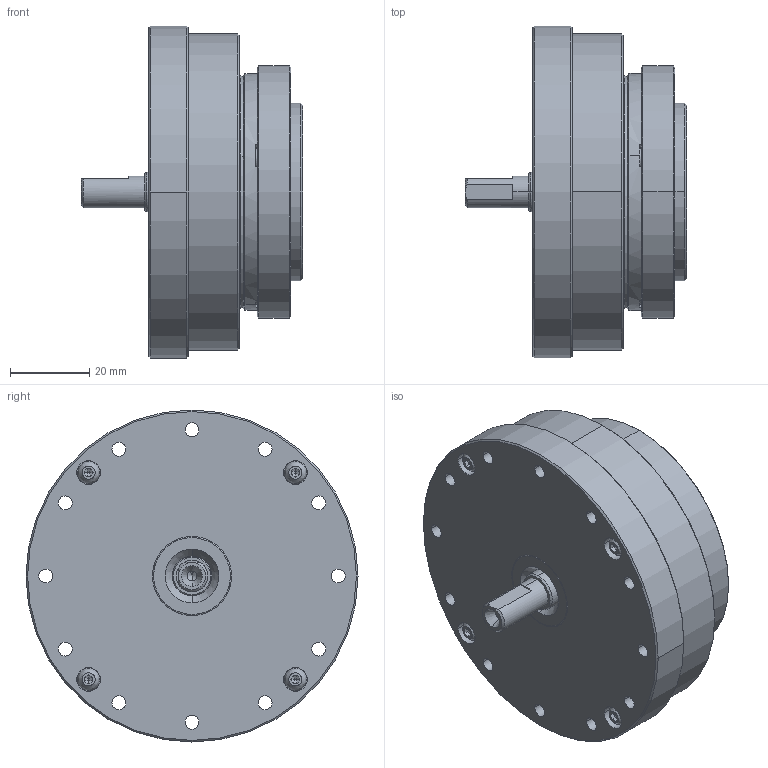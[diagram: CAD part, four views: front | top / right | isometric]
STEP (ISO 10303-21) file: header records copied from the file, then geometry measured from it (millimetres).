
FILE_DESCRIPTION (( 'STEP AP203' ), '1' );
FILE_NAME ('LHSG-17-XXX-C-IV.step', '2025-01-07T07:24:15', ( '' ), ( '' ), 'SwSTEP 2.0', 'SolidWorks 2023', '' );
FILE_SCHEMA (( 'CONFIG_CONTROL_DESIGN' ));
Length unit declared in the file: metre
Products named in the file (1): LHSG-17-XXX-C-IV
Bounding box: 56 x 84 x 84 mm (x, y, z)
Volume: 121185.9 mm3; surface area: 99323.7 mm2
Topology: 64 solids, 64 shells, 1755 faces, 4406 edges, 2679 vertices
Faces by surface type: cylinder 634, plane 552, bspline 318, cone 251
Entity records: 59777 total; most frequent: CARTESIAN_POINT 18980, DIRECTION 8563, ORIENTED_EDGE 8440, EDGE_CURVE 4220, AXIS2_PLACEMENT_3D 3499, VERTEX_POINT 2678, EDGE_LOOP 2144, CIRCLE 2061
